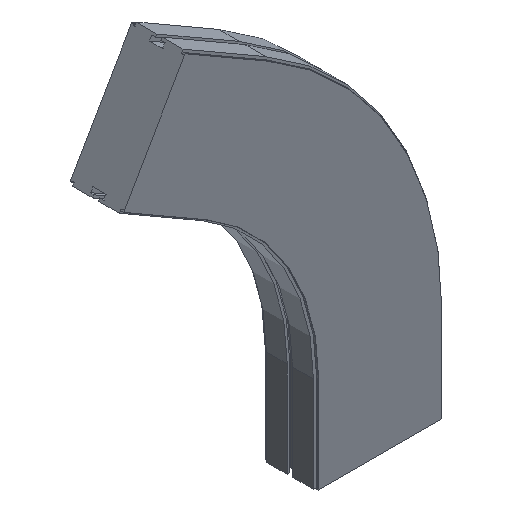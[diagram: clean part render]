
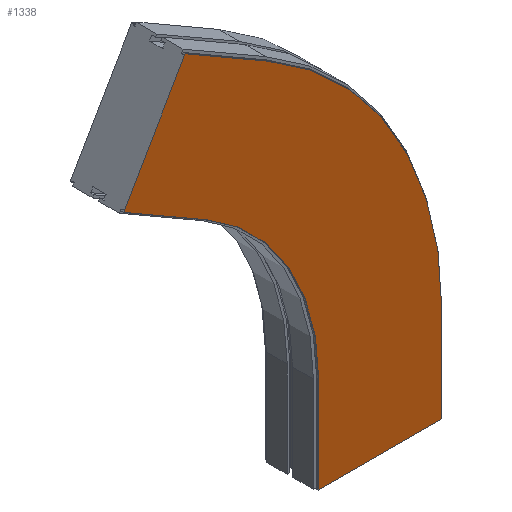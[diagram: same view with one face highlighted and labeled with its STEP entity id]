
A CAD part, isometric view. The second image highlights one B-rep face of the part: STEP entity #1338.
In plain terms, the highlighted planar face has unit normal (0, -1, 0).
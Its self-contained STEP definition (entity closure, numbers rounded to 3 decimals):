
#12 = CARTESIAN_POINT ( 'NONE',  ( -96.65, -42., 150. ) ) ;
#35 = VERTEX_POINT ( 'NONE', #902 ) ;
#45 = CARTESIAN_POINT ( 'NONE',  ( -176.675, -42., 623.413 ) ) ;
#91 = VECTOR ( 'NONE', #1493, 1000. ) ;
#117 = VECTOR ( 'NONE', #788, 1000. ) ;
#144 = DIRECTION ( 'NONE',  ( 0., 0., -1. ) ) ;
#156 = DIRECTION ( 'NONE',  ( -0.866, 0., 0.5 ) ) ;
#158 = FACE_OUTER_BOUND ( 'NONE', #282, .T. ) ;
#200 = ORIENTED_EDGE ( 'NONE', *, *, #363, .T. ) ;
#281 = VECTOR ( 'NONE', #2913, 1000. ) ;
#282 = EDGE_LOOP ( 'NONE', ( #326, #2644, #1790, #2028, #200, #2312, #1561, #2687 ) ) ;
#301 = EDGE_CURVE ( 'Edge42', #413, #2610, #2825, .T. ) ;
#326 = ORIENTED_EDGE ( 'NONE', *, *, #386, .F. ) ;
#333 = CARTESIAN_POINT ( 'NONE',  ( -450., -42., 150. ) ) ;
#363 = EDGE_CURVE ( 'NONE', #2610, #35, #935, .T. ) ;
#386 = EDGE_CURVE ( 'NONE', #2509, #2504, #715, .T. ) ;
#413 = VERTEX_POINT ( 'NONE', #45 ) ;
#418 = VECTOR ( 'NONE', #144, 1000. ) ;
#499 = CARTESIAN_POINT ( 'NONE',  ( -176.675, -42., 623.413 ) ) ;
#704 = CARTESIAN_POINT ( 'NONE',  ( -306.579, -42., 698.413 ) ) ;
#715 = LINE ( 'NONE', #2470, #1736 ) ;
#746 = DIRECTION ( 'NONE',  ( 0., -1., 0. ) ) ;
#776 = AXIS2_PLACEMENT_3D ( 'NONE', #333, #1098, #1087 ) ;
#788 = DIRECTION ( 'NONE',  ( 0., 0., -1. ) ) ;
#813 = LINE ( 'NONE', #3056, #1081 ) ;
#902 = CARTESIAN_POINT ( 'NONE',  ( -403.229, -42., 531.01 ) ) ;
#935 = LINE ( 'NONE', #1216, #91 ) ;
#994 = CARTESIAN_POINT ( 'NONE',  ( 96.65, -42., 150. ) ) ;
#1000 = CARTESIAN_POINT ( 'NONE',  ( -450., -42., 150. ) ) ;
#1081 = VECTOR ( 'NONE', #156, 1000. ) ;
#1087 = DIRECTION ( 'NONE',  ( 0., 0., -1. ) ) ;
#1098 = DIRECTION ( 'NONE',  ( 0., -1., 0. ) ) ;
#1216 = CARTESIAN_POINT ( 'NONE',  ( -403.229, -42., 531.01 ) ) ;
#1234 = LINE ( 'NONE', #994, #117 ) ;
#1244 = DIRECTION ( 'NONE',  ( 0., 0., -1. ) ) ;
#1277 = CARTESIAN_POINT ( 'NONE',  ( -273.325, -42., 456.01 ) ) ;
#1338 = ADVANCED_FACE ( 'NONE', ( #158 ), #2920, .T. ) ;
#1493 = DIRECTION ( 'NONE',  ( -0.5, 0., -0.866 ) ) ;
#1561 = ORIENTED_EDGE ( 'NONE', *, *, #1676, .F. ) ;
#1676 = EDGE_CURVE ( 'NONE', #3034, #2882, #2708, .T. ) ;
#1736 = VECTOR ( 'NONE', #2571, 1000. ) ;
#1790 = ORIENTED_EDGE ( 'NONE', *, *, #2362, .T. ) ;
#1802 = VERTEX_POINT ( 'NONE', #2751 ) ;
#1991 = EDGE_CURVE ( 'NONE', #2882, #35, #813, .T. ) ;
#2028 = ORIENTED_EDGE ( 'NONE', *, *, #301, .T. ) ;
#2101 = CARTESIAN_POINT ( 'NONE',  ( -96.65, -42., 0. ) ) ;
#2259 = CIRCLE ( 'NONE', #2816, 546.65 ) ;
#2300 = CARTESIAN_POINT ( 'NONE',  ( -96.65, -42., 150. ) ) ;
#2312 = ORIENTED_EDGE ( 'NONE', *, *, #1991, .F. ) ;
#2362 = EDGE_CURVE ( 'Edge18', #1802, #413, #2259, .T. ) ;
#2363 = LINE ( 'NONE', #2300, #418 ) ;
#2470 = CARTESIAN_POINT ( 'NONE',  ( -96.65, -42., 0. ) ) ;
#2504 = VERTEX_POINT ( 'NONE', #2101 ) ;
#2509 = VERTEX_POINT ( 'NONE', #3089 ) ;
#2571 = DIRECTION ( 'NONE',  ( -1., 0., 0. ) ) ;
#2610 = VERTEX_POINT ( 'NONE', #704 ) ;
#2644 = ORIENTED_EDGE ( 'NONE', *, *, #2734, .F. ) ;
#2687 = ORIENTED_EDGE ( 'NONE', *, *, #3040, .T. ) ;
#2690 = DIRECTION ( 'NONE',  ( 0., -1., 0. ) ) ;
#2708 = CIRCLE ( 'NONE', #776, 353.35 ) ;
#2734 = EDGE_CURVE ( 'NONE', #1802, #2509, #1234, .T. ) ;
#2751 = CARTESIAN_POINT ( 'NONE',  ( 96.65, -42., 150. ) ) ;
#2816 = AXIS2_PLACEMENT_3D ( 'NONE', #1000, #2690, #1244 ) ;
#2825 = LINE ( 'NONE', #499, #281 ) ;
#2878 = AXIS2_PLACEMENT_3D ( 'NONE', #12, #746, #2935 ) ;
#2882 = VERTEX_POINT ( 'NONE', #1277 ) ;
#2913 = DIRECTION ( 'NONE',  ( -0.866, 0., 0.5 ) ) ;
#2920 = PLANE ( 'NONE',  #2878 ) ;
#2935 = DIRECTION ( 'NONE',  ( 1., 0., 0. ) ) ;
#3034 = VERTEX_POINT ( 'NONE', #3053 ) ;
#3040 = EDGE_CURVE ( 'NONE', #3034, #2504, #2363, .T. ) ;
#3053 = CARTESIAN_POINT ( 'NONE',  ( -96.65, -42., 150. ) ) ;
#3056 = CARTESIAN_POINT ( 'NONE',  ( -273.325, -42., 456.01 ) ) ;
#3089 = CARTESIAN_POINT ( 'NONE',  ( 96.65, -42., 0. ) ) ;
